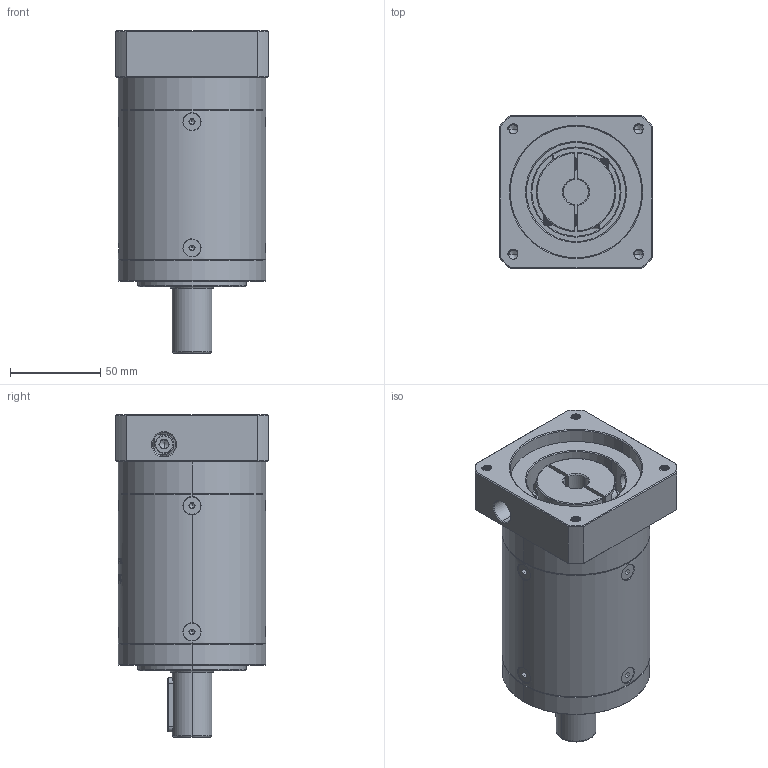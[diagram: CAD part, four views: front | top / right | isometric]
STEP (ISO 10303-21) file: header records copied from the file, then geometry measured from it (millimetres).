
FILE_DESCRIPTION (( 'STEP AP214' ), '1' );
FILE_NAME ('ZE80-D22-L3-14-73-69.5X69.5-M6.step', '2022-05-08T05:55:15', ( '' ), ( 'Microsoft' ), 'SwSTEP 2.0', 'SolidWorks 2016', '' );
FILE_SCHEMA (( 'AUTOMOTIVE_DESIGN' ));
Length unit declared in the file: millimetre
Products named in the file (1): ZE80-D22-L3-14-73-69.5X69.5-M6
Bounding box: 85 x 85 x 179 mm (x, y, z)
Volume: 725754.4 mm3; surface area: 95685.1 mm2
Topology: 13 solids, 13 shells, 2064 faces, 5369 edges, 3394 vertices
Faces by surface type: plane 891, cylinder 500, bspline 332, cone 324, torus 17
Entity records: 118391 total; most frequent: CARTESIAN_POINT 49483, ORIENTED_EDGE 10662, DIRECTION 8188, EDGE_CURVE 5331, VERTEX_POINT 3394, LINE 2860, VECTOR 2860, AXIS2_PLACEMENT_3D 2664
